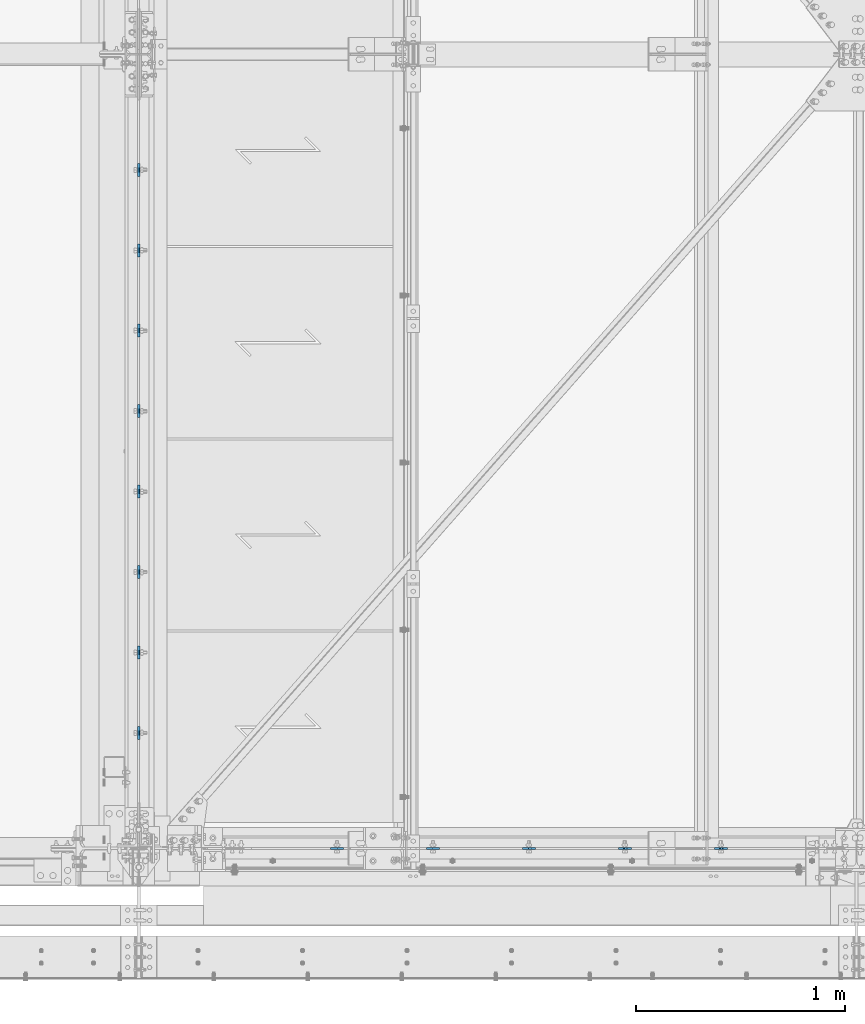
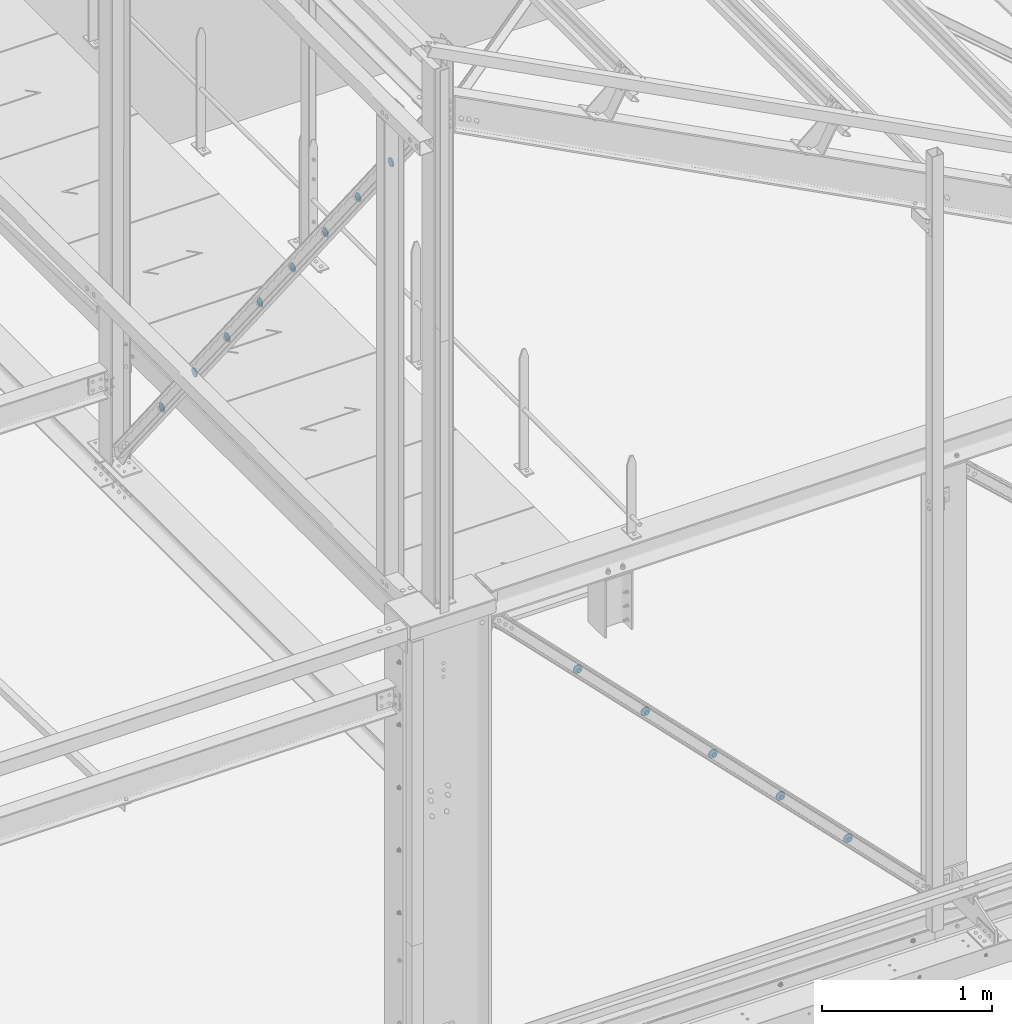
# One storey, part 117 of 362: 13 beams, 13 elements without a shape of their own.
"""IFC2X3 building model written with IfcOpenShell, lengths in millimetres."""

from ifc_helpers import new_model, si_unit, frame, frame_2d, origin_with_axes, place, context, subcontext, project, spatial, circle_curve, parameter, trimmed, segment, composite_curve, outline, extrude, material, type_object, element, aggregate, save


model = new_model("IFC2X3")

# Units and contexts
model_context = context("Model", 3, precision=1e-05, world=origin_with_axes())
body_context = subcontext(model_context, "Body", "Model", "MODEL_VIEW")
ifc_project = project(units=[si_unit("LENGTHUNIT", "METRE", prefix="MILLI"), si_unit("AREAUNIT", "SQUARE_METRE"), si_unit("VOLUMEUNIT", "CUBIC_METRE"), si_unit("MASSUNIT", "GRAM", prefix="KILO"), si_unit("TIMEUNIT", "SECOND"), si_unit("PLANEANGLEUNIT", "RADIAN"), si_unit("SOLIDANGLEUNIT", "STERADIAN"), si_unit("THERMODYNAMICTEMPERATUREUNIT", "DEGREE_CELSIUS"), si_unit("LUMINOUSINTENSITYUNIT", "LUMEN")], contexts=[model_context])

# Site, building, storey
site_placement = place(None, origin_with_axes())
site = spatial("IfcSite", under=ifc_project, at=site_placement, Name="Undefined", CompositionType="ELEMENT")
building_placement = place(site_placement, origin_with_axes())
building = spatial("IfcBuilding", under=site, at=building_placement, Name="Undefined", CompositionType="ELEMENT")
storey_placement = place(building_placement, origin_with_axes())
storey = spatial("IfcBuildingStorey", under=building, at=storey_placement, Name="Undefined", CompositionType="ELEMENT", Elevation=0.0)

# Assembly, beam
assembly_1_placement = place(storey_placement, origin_with_axes())
assembly_1 = element("IfcElementAssembly", 1, at=assembly_1_placement, inside=storey, AssemblyPlace="NOTDEFINED", PredefinedType="NOTDEFINED")
ifc_material = material(Name="Undefined/S235-E24")
beam_type = type_object("IfcBeamType", Name="TOLE8*60", PredefinedType="NOTDEFINED")
beam_1_placement = place(assembly_1_placement, frame((15495.7099829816, 0.0, 5876.32293470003), z_axis=(0.0, -1.0, 0.0), x_axis=(-1.0, 0.0, 0.0)))
beam_1 = element("IfcBeam", 2, at=beam_1_placement, type_object=beam_type, material=ifc_material, Name="PLAQUETTE", ObjectType="TOLE8*60", context=body_context, shape_type="SweptSolid", body=[
    extrude(outline(composite_curve([segment(trimmed(circle_curve(frame_2d((30.0, 30.0), x_axis=(-1.0, 0.0)), 30.0), [parameter(0.0)], [parameter(1.5707963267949)], True, "PARAMETER"), True, "CONTINUOUS"), segment(trimmed(circle_curve(frame_2d((30.0, 30.0), x_axis=(0.0, -1.0)), 30.0), [parameter(0.0)], [parameter(1.5707963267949)], True, "PARAMETER"), True, "CONTINUOUS"), segment(trimmed(circle_curve(frame_2d((30.0, 30.0), x_axis=(1.0, 0.0)), 30.0), [parameter(0.0)], [parameter(1.5707963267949)], True, "PARAMETER"), True, "CONTINUOUS"), segment(trimmed(circle_curve(frame_2d((30.0, 30.0), x_axis=(0.0, 1.0)), 30.0), [parameter(0.0)], [parameter(1.5707963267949)], True, "PARAMETER"), True, "CONTINUOUS")], self_intersect=True)), frame((0.0, 0.0, -4.0), z_axis=(0.0, 0.0, 1.0), x_axis=(1.0, 0.0, 0.0)), (0.0, 0.0, 1.0), 8.0),
])
aggregate(assembly_1, [beam_1])

assembly_2_placement = place(storey_placement, origin_with_axes())
assembly_2 = element("IfcElementAssembly", 3, at=assembly_2_placement, inside=storey, AssemblyPlace="NOTDEFINED", PredefinedType="NOTDEFINED")
beam_2_placement = place(assembly_2_placement, frame((15036.5372151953, 0.0, 6340.66143241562), z_axis=(0.0, -1.0, 0.0), x_axis=(-1.0, 0.0, 0.0)))
beam_2 = element("IfcBeam", 4, at=beam_2_placement, type_object=beam_type, material=ifc_material, Name="PLAQUETTE", ObjectType="TOLE8*60", context=body_context, shape_type="SweptSolid", body=[
    extrude(outline(composite_curve([segment(trimmed(circle_curve(frame_2d((30.0, 30.0), x_axis=(-1.0, 0.0)), 30.0), [parameter(0.0)], [parameter(1.5707963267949)], True, "PARAMETER"), True, "CONTINUOUS"), segment(trimmed(circle_curve(frame_2d((30.0, 30.0), x_axis=(0.0, -1.0)), 30.0), [parameter(0.0)], [parameter(1.5707963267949)], True, "PARAMETER"), True, "CONTINUOUS"), segment(trimmed(circle_curve(frame_2d((30.0, 30.0), x_axis=(1.0, 0.0)), 30.0), [parameter(0.0)], [parameter(1.5707963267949)], True, "PARAMETER"), True, "CONTINUOUS"), segment(trimmed(circle_curve(frame_2d((30.0, 30.0), x_axis=(0.0, 1.0)), 30.0), [parameter(0.0)], [parameter(1.5707963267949)], True, "PARAMETER"), True, "CONTINUOUS")], self_intersect=True)), frame((0.0, 0.0, -4.0), z_axis=(0.0, 0.0, 1.0), x_axis=(1.0, 0.0, 0.0)), (0.0, 0.0, 1.0), 8.0),
])
aggregate(assembly_2, [beam_2])

assembly_3_placement = place(storey_placement, origin_with_axes())
assembly_3 = element("IfcElementAssembly", 5, at=assembly_3_placement, inside=storey, AssemblyPlace="NOTDEFINED", PredefinedType="NOTDEFINED")
beam_3_placement = place(assembly_3_placement, frame((14577.3644474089, 0.0, 6804.99993013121), z_axis=(0.0, -1.0, 0.0), x_axis=(-1.0, 0.0, 0.0)))
beam_3 = element("IfcBeam", 6, at=beam_3_placement, type_object=beam_type, material=ifc_material, Name="PLAQUETTE", ObjectType="TOLE8*60", context=body_context, shape_type="SweptSolid", body=[
    extrude(outline(composite_curve([segment(trimmed(circle_curve(frame_2d((30.0, 30.0), x_axis=(-1.0, 0.0)), 30.0), [parameter(0.0)], [parameter(1.5707963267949)], True, "PARAMETER"), True, "CONTINUOUS"), segment(trimmed(circle_curve(frame_2d((30.0, 30.0), x_axis=(0.0, -1.0)), 30.0), [parameter(0.0)], [parameter(1.5707963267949)], True, "PARAMETER"), True, "CONTINUOUS"), segment(trimmed(circle_curve(frame_2d((30.0, 30.0), x_axis=(1.0, 0.0)), 30.0), [parameter(0.0)], [parameter(1.5707963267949)], True, "PARAMETER"), True, "CONTINUOUS"), segment(trimmed(circle_curve(frame_2d((30.0, 30.0), x_axis=(0.0, 1.0)), 30.0), [parameter(0.0)], [parameter(1.5707963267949)], True, "PARAMETER"), True, "CONTINUOUS")], self_intersect=True)), frame((0.0, 0.0, -4.0), z_axis=(0.0, 0.0, 1.0), x_axis=(1.0, 0.0, 0.0)), (0.0, 0.0, 1.0), 8.0),
])
aggregate(assembly_3, [beam_3])

assembly_4_placement = place(storey_placement, origin_with_axes())
assembly_4 = element("IfcElementAssembly", 7, at=assembly_4_placement, inside=storey, AssemblyPlace="NOTDEFINED", PredefinedType="NOTDEFINED")
beam_4_placement = place(assembly_4_placement, frame((14118.1916796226, 0.0, 7269.3384278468), z_axis=(0.0, -1.0, 0.0), x_axis=(-1.0, 0.0, 0.0)))
beam_4 = element("IfcBeam", 8, at=beam_4_placement, type_object=beam_type, material=ifc_material, Name="PLAQUETTE", ObjectType="TOLE8*60", context=body_context, shape_type="SweptSolid", body=[
    extrude(outline(composite_curve([segment(trimmed(circle_curve(frame_2d((30.0, 30.0), x_axis=(-1.0, 0.0)), 30.0), [parameter(0.0)], [parameter(1.5707963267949)], True, "PARAMETER"), True, "CONTINUOUS"), segment(trimmed(circle_curve(frame_2d((30.0, 30.0), x_axis=(0.0, -1.0)), 30.0), [parameter(0.0)], [parameter(1.5707963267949)], True, "PARAMETER"), True, "CONTINUOUS"), segment(trimmed(circle_curve(frame_2d((30.0, 30.0), x_axis=(1.0, 0.0)), 30.0), [parameter(0.0)], [parameter(1.5707963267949)], True, "PARAMETER"), True, "CONTINUOUS"), segment(trimmed(circle_curve(frame_2d((30.0, 30.0), x_axis=(0.0, 1.0)), 30.0), [parameter(0.0)], [parameter(1.5707963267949)], True, "PARAMETER"), True, "CONTINUOUS")], self_intersect=True)), frame((0.0, 0.0, -4.0), z_axis=(0.0, 0.0, 1.0), x_axis=(1.0, 0.0, 0.0)), (0.0, 0.0, 1.0), 8.0),
])
aggregate(assembly_4, [beam_4])

assembly_5_placement = place(storey_placement, origin_with_axes())
assembly_5 = element("IfcElementAssembly", 9, at=assembly_5_placement, inside=storey, AssemblyPlace="NOTDEFINED", PredefinedType="NOTDEFINED")
beam_5_placement = place(assembly_5_placement, frame((12680.0, 582.791893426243, 11370.6336269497), z_axis=(-1.0, 0.0, 0.0), x_axis=(0.0, 0.0, -1.0)))
beam_5 = element("IfcBeam", 10, at=beam_5_placement, type_object=beam_type, material=ifc_material, Name="PLAQUETTE", ObjectType="TOLE8*60", context=body_context, shape_type="SweptSolid", body=[
    extrude(outline(composite_curve([segment(trimmed(circle_curve(frame_2d((30.0, 30.0), x_axis=(-1.0, 0.0)), 30.0), [parameter(0.0)], [parameter(1.5707963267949)], True, "PARAMETER"), True, "CONTINUOUS"), segment(trimmed(circle_curve(frame_2d((30.0, 30.0), x_axis=(0.0, -1.0)), 30.0), [parameter(0.0)], [parameter(1.5707963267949)], True, "PARAMETER"), True, "CONTINUOUS"), segment(trimmed(circle_curve(frame_2d((30.0, 30.0), x_axis=(1.0, 0.0)), 30.0), [parameter(0.0)], [parameter(1.5707963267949)], True, "PARAMETER"), True, "CONTINUOUS"), segment(trimmed(circle_curve(frame_2d((30.0, 30.0), x_axis=(0.0, 1.0)), 30.0), [parameter(0.0)], [parameter(1.5707963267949)], True, "PARAMETER"), True, "CONTINUOUS")], self_intersect=True)), frame((0.0, 0.0, -4.0), z_axis=(0.0, 0.0, 1.0), x_axis=(1.0, 0.0, 0.0)), (0.0, 0.0, 1.0), 8.0),
])
aggregate(assembly_5, [beam_5])

assembly_6_placement = place(storey_placement, origin_with_axes())
assembly_6 = element("IfcElementAssembly", 11, at=assembly_6_placement, inside=storey, AssemblyPlace="NOTDEFINED", PredefinedType="NOTDEFINED")
beam_6_placement = place(assembly_6_placement, frame((12680.0, 967.709284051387, 10885.7383048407), z_axis=(-1.0, 0.0, 0.0), x_axis=(0.0, 0.0, -1.0)))
beam_6 = element("IfcBeam", 12, at=beam_6_placement, type_object=beam_type, material=ifc_material, Name="PLAQUETTE", ObjectType="TOLE8*60", context=body_context, shape_type="SweptSolid", body=[
    extrude(outline(composite_curve([segment(trimmed(circle_curve(frame_2d((30.0, 30.0), x_axis=(-1.0, 0.0)), 30.0), [parameter(0.0)], [parameter(1.5707963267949)], True, "PARAMETER"), True, "CONTINUOUS"), segment(trimmed(circle_curve(frame_2d((30.0, 30.0), x_axis=(0.0, -1.0)), 30.0), [parameter(0.0)], [parameter(1.5707963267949)], True, "PARAMETER"), True, "CONTINUOUS"), segment(trimmed(circle_curve(frame_2d((30.0, 30.0), x_axis=(1.0, 0.0)), 30.0), [parameter(0.0)], [parameter(1.5707963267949)], True, "PARAMETER"), True, "CONTINUOUS"), segment(trimmed(circle_curve(frame_2d((30.0, 30.0), x_axis=(0.0, 1.0)), 30.0), [parameter(0.0)], [parameter(1.5707963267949)], True, "PARAMETER"), True, "CONTINUOUS")], self_intersect=True)), frame((0.0, 0.0, -4.0), z_axis=(0.0, 0.0, 1.0), x_axis=(1.0, 0.0, 0.0)), (0.0, 0.0, 1.0), 8.0),
])
aggregate(assembly_6, [beam_6])

assembly_7_placement = place(storey_placement, origin_with_axes())
assembly_7 = element("IfcElementAssembly", 13, at=assembly_7_placement, inside=storey, AssemblyPlace="NOTDEFINED", PredefinedType="NOTDEFINED")
beam_7_placement = place(assembly_7_placement, frame((12680.0, 1352.62667467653, 10400.8429827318), z_axis=(-1.0, 0.0, 0.0), x_axis=(0.0, 0.0, -1.0)))
beam_7 = element("IfcBeam", 14, at=beam_7_placement, type_object=beam_type, material=ifc_material, Name="PLAQUETTE", ObjectType="TOLE8*60", context=body_context, shape_type="SweptSolid", body=[
    extrude(outline(composite_curve([segment(trimmed(circle_curve(frame_2d((30.0, 30.0), x_axis=(-1.0, 0.0)), 30.0), [parameter(0.0)], [parameter(1.5707963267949)], True, "PARAMETER"), True, "CONTINUOUS"), segment(trimmed(circle_curve(frame_2d((30.0, 30.0), x_axis=(0.0, -1.0)), 30.0), [parameter(0.0)], [parameter(1.5707963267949)], True, "PARAMETER"), True, "CONTINUOUS"), segment(trimmed(circle_curve(frame_2d((30.0, 30.0), x_axis=(1.0, 0.0)), 30.0), [parameter(0.0)], [parameter(1.5707963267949)], True, "PARAMETER"), True, "CONTINUOUS"), segment(trimmed(circle_curve(frame_2d((30.0, 30.0), x_axis=(0.0, 1.0)), 30.0), [parameter(0.0)], [parameter(1.5707963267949)], True, "PARAMETER"), True, "CONTINUOUS")], self_intersect=True)), frame((0.0, 0.0, -4.0), z_axis=(0.0, 0.0, 1.0), x_axis=(1.0, 0.0, 0.0)), (0.0, 0.0, 1.0), 8.0),
])
aggregate(assembly_7, [beam_7])

assembly_8_placement = place(storey_placement, origin_with_axes())
assembly_8 = element("IfcElementAssembly", 15, at=assembly_8_placement, inside=storey, AssemblyPlace="NOTDEFINED", PredefinedType="NOTDEFINED")
beam_8_placement = place(assembly_8_placement, frame((12680.0, 1737.54406530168, 9915.94766062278), z_axis=(-1.0, 0.0, 0.0), x_axis=(0.0, 0.0, -1.0)))
beam_8 = element("IfcBeam", 16, at=beam_8_placement, type_object=beam_type, material=ifc_material, Name="PLAQUETTE", ObjectType="TOLE8*60", context=body_context, shape_type="SweptSolid", body=[
    extrude(outline(composite_curve([segment(trimmed(circle_curve(frame_2d((30.0, 30.0), x_axis=(-1.0, 0.0)), 30.0), [parameter(0.0)], [parameter(1.5707963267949)], True, "PARAMETER"), True, "CONTINUOUS"), segment(trimmed(circle_curve(frame_2d((30.0, 30.0), x_axis=(0.0, -1.0)), 30.0), [parameter(0.0)], [parameter(1.5707963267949)], True, "PARAMETER"), True, "CONTINUOUS"), segment(trimmed(circle_curve(frame_2d((30.0, 30.0), x_axis=(1.0, 0.0)), 30.0), [parameter(0.0)], [parameter(1.5707963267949)], True, "PARAMETER"), True, "CONTINUOUS"), segment(trimmed(circle_curve(frame_2d((30.0, 30.0), x_axis=(0.0, 1.0)), 30.0), [parameter(0.0)], [parameter(1.5707963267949)], True, "PARAMETER"), True, "CONTINUOUS")], self_intersect=True)), frame((0.0, 0.0, -4.0), z_axis=(0.0, 0.0, 1.0), x_axis=(1.0, 0.0, 0.0)), (0.0, 0.0, 1.0), 8.0),
])
aggregate(assembly_8, [beam_8])

assembly_9_placement = place(storey_placement, origin_with_axes())
assembly_9 = element("IfcElementAssembly", 17, at=assembly_9_placement, inside=storey, AssemblyPlace="NOTDEFINED", PredefinedType="NOTDEFINED")
beam_9_placement = place(assembly_9_placement, frame((12680.0, 2122.46145592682, 9431.0523385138), z_axis=(-1.0, 0.0, 0.0), x_axis=(0.0, 0.0, -1.0)))
beam_9 = element("IfcBeam", 18, at=beam_9_placement, type_object=beam_type, material=ifc_material, Name="PLAQUETTE", ObjectType="TOLE8*60", context=body_context, shape_type="SweptSolid", body=[
    extrude(outline(composite_curve([segment(trimmed(circle_curve(frame_2d((30.0, 30.0), x_axis=(-1.0, 0.0)), 30.0), [parameter(0.0)], [parameter(1.5707963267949)], True, "PARAMETER"), True, "CONTINUOUS"), segment(trimmed(circle_curve(frame_2d((30.0, 30.0), x_axis=(0.0, -1.0)), 30.0), [parameter(0.0)], [parameter(1.5707963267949)], True, "PARAMETER"), True, "CONTINUOUS"), segment(trimmed(circle_curve(frame_2d((30.0, 30.0), x_axis=(1.0, 0.0)), 30.0), [parameter(0.0)], [parameter(1.5707963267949)], True, "PARAMETER"), True, "CONTINUOUS"), segment(trimmed(circle_curve(frame_2d((30.0, 30.0), x_axis=(0.0, 1.0)), 30.0), [parameter(0.0)], [parameter(1.5707963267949)], True, "PARAMETER"), True, "CONTINUOUS")], self_intersect=True)), frame((0.0, 0.0, -4.0), z_axis=(0.0, 0.0, 1.0), x_axis=(1.0, 0.0, 0.0)), (0.0, 0.0, 1.0), 8.0),
])
aggregate(assembly_9, [beam_9])

assembly_10_placement = place(storey_placement, origin_with_axes())
assembly_10 = element("IfcElementAssembly", 19, at=assembly_10_placement, inside=storey, AssemblyPlace="NOTDEFINED", PredefinedType="NOTDEFINED")
beam_10_placement = place(assembly_10_placement, frame((12680.0, 2507.37884655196, 8946.15701640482), z_axis=(-1.0, 0.0, 0.0), x_axis=(0.0, 0.0, -1.0)))
beam_10 = element("IfcBeam", 20, at=beam_10_placement, type_object=beam_type, material=ifc_material, Name="PLAQUETTE", ObjectType="TOLE8*60", context=body_context, shape_type="SweptSolid", body=[
    extrude(outline(composite_curve([segment(trimmed(circle_curve(frame_2d((30.0, 30.0), x_axis=(-1.0, 0.0)), 30.0), [parameter(0.0)], [parameter(1.5707963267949)], True, "PARAMETER"), True, "CONTINUOUS"), segment(trimmed(circle_curve(frame_2d((30.0, 30.0), x_axis=(0.0, -1.0)), 30.0), [parameter(0.0)], [parameter(1.5707963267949)], True, "PARAMETER"), True, "CONTINUOUS"), segment(trimmed(circle_curve(frame_2d((30.0, 30.0), x_axis=(1.0, 0.0)), 30.0), [parameter(0.0)], [parameter(1.5707963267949)], True, "PARAMETER"), True, "CONTINUOUS"), segment(trimmed(circle_curve(frame_2d((30.0, 30.0), x_axis=(0.0, 1.0)), 30.0), [parameter(0.0)], [parameter(1.5707963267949)], True, "PARAMETER"), True, "CONTINUOUS")], self_intersect=True)), frame((0.0, 0.0, -4.0), z_axis=(0.0, 0.0, 1.0), x_axis=(1.0, 0.0, 0.0)), (0.0, 0.0, 1.0), 8.0),
])
aggregate(assembly_10, [beam_10])

assembly_11_placement = place(storey_placement, origin_with_axes())
assembly_11 = element("IfcElementAssembly", 21, at=assembly_11_placement, inside=storey, AssemblyPlace="NOTDEFINED", PredefinedType="NOTDEFINED")
beam_11_placement = place(assembly_11_placement, frame((12680.0, 2892.29623717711, 8461.26169429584), z_axis=(-1.0, 0.0, 0.0), x_axis=(0.0, 0.0, -1.0)))
beam_11 = element("IfcBeam", 22, at=beam_11_placement, type_object=beam_type, material=ifc_material, Name="PLAQUETTE", ObjectType="TOLE8*60", context=body_context, shape_type="SweptSolid", body=[
    extrude(outline(composite_curve([segment(trimmed(circle_curve(frame_2d((30.0, 30.0), x_axis=(-1.0, 0.0)), 30.0), [parameter(0.0)], [parameter(1.5707963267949)], True, "PARAMETER"), True, "CONTINUOUS"), segment(trimmed(circle_curve(frame_2d((30.0, 30.0), x_axis=(0.0, -1.0)), 30.0), [parameter(0.0)], [parameter(1.5707963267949)], True, "PARAMETER"), True, "CONTINUOUS"), segment(trimmed(circle_curve(frame_2d((30.0, 30.0), x_axis=(1.0, 0.0)), 30.0), [parameter(0.0)], [parameter(1.5707963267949)], True, "PARAMETER"), True, "CONTINUOUS"), segment(trimmed(circle_curve(frame_2d((30.0, 30.0), x_axis=(0.0, 1.0)), 30.0), [parameter(0.0)], [parameter(1.5707963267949)], True, "PARAMETER"), True, "CONTINUOUS")], self_intersect=True)), frame((0.0, 0.0, -4.0), z_axis=(0.0, 0.0, 1.0), x_axis=(1.0, 0.0, 0.0)), (0.0, 0.0, 1.0), 8.0),
])
aggregate(assembly_11, [beam_11])

assembly_12_placement = place(storey_placement, origin_with_axes())
assembly_12 = element("IfcElementAssembly", 23, at=assembly_12_placement, inside=storey, AssemblyPlace="NOTDEFINED", PredefinedType="NOTDEFINED")
beam_12_placement = place(assembly_12_placement, frame((12680.0, 3277.21362780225, 7976.36637218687), z_axis=(-1.0, 0.0, 0.0), x_axis=(0.0, 0.0, -1.0)))
beam_12 = element("IfcBeam", 24, at=beam_12_placement, type_object=beam_type, material=ifc_material, Name="PLAQUETTE", ObjectType="TOLE8*60", context=body_context, shape_type="SweptSolid", body=[
    extrude(outline(composite_curve([segment(trimmed(circle_curve(frame_2d((30.0, 30.0), x_axis=(-1.0, 0.0)), 30.0), [parameter(0.0)], [parameter(1.5707963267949)], True, "PARAMETER"), True, "CONTINUOUS"), segment(trimmed(circle_curve(frame_2d((30.0, 30.0), x_axis=(0.0, -1.0)), 30.0), [parameter(0.0)], [parameter(1.5707963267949)], True, "PARAMETER"), True, "CONTINUOUS"), segment(trimmed(circle_curve(frame_2d((30.0, 30.0), x_axis=(1.0, 0.0)), 30.0), [parameter(0.0)], [parameter(1.5707963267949)], True, "PARAMETER"), True, "CONTINUOUS"), segment(trimmed(circle_curve(frame_2d((30.0, 30.0), x_axis=(0.0, 1.0)), 30.0), [parameter(0.0)], [parameter(1.5707963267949)], True, "PARAMETER"), True, "CONTINUOUS")], self_intersect=True)), frame((0.0, 0.0, -4.0), z_axis=(0.0, 0.0, 1.0), x_axis=(1.0, 0.0, 0.0)), (0.0, 0.0, 1.0), 8.0),
])
aggregate(assembly_12, [beam_12])

assembly_13_placement = place(storey_placement, origin_with_axes())
assembly_13 = element("IfcElementAssembly", 25, at=assembly_13_placement, inside=storey, AssemblyPlace="NOTDEFINED", PredefinedType="NOTDEFINED")
beam_13_placement = place(assembly_13_placement, frame((13659.0189118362, 0.0, 7733.67692556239), z_axis=(0.0, -1.0, 0.0), x_axis=(-1.0, 0.0, 0.0)))
beam_13 = element("IfcBeam", 26, at=beam_13_placement, type_object=beam_type, material=ifc_material, Name="PLAQUETTE", ObjectType="TOLE8*60", context=body_context, shape_type="SweptSolid", body=[
    extrude(outline(composite_curve([segment(trimmed(circle_curve(frame_2d((30.0, 30.0), x_axis=(-1.0, 0.0)), 30.0), [parameter(0.0)], [parameter(1.5707963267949)], True, "PARAMETER"), True, "CONTINUOUS"), segment(trimmed(circle_curve(frame_2d((30.0, 30.0), x_axis=(0.0, -1.0)), 30.0), [parameter(0.0)], [parameter(1.5707963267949)], True, "PARAMETER"), True, "CONTINUOUS"), segment(trimmed(circle_curve(frame_2d((30.0, 30.0), x_axis=(1.0, 0.0)), 30.0), [parameter(0.0)], [parameter(1.5707963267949)], True, "PARAMETER"), True, "CONTINUOUS"), segment(trimmed(circle_curve(frame_2d((30.0, 30.0), x_axis=(0.0, 1.0)), 30.0), [parameter(0.0)], [parameter(1.5707963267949)], True, "PARAMETER"), True, "CONTINUOUS")], self_intersect=True)), frame((0.0, 0.0, -4.0), z_axis=(0.0, 0.0, 1.0), x_axis=(1.0, 0.0, 0.0)), (0.0, 0.0, 1.0), 8.0),
])
aggregate(assembly_13, [beam_13])

save(model, "model.ifc")
